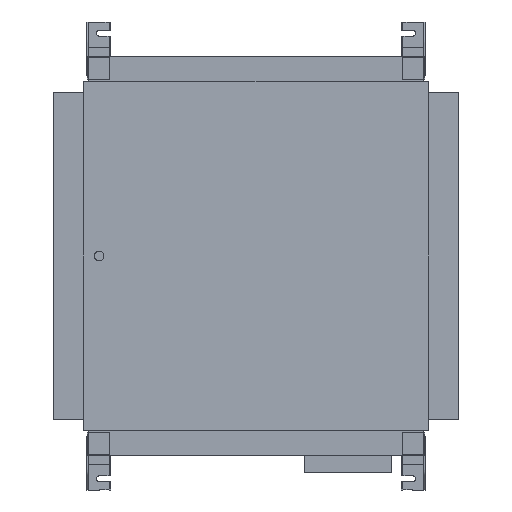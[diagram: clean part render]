
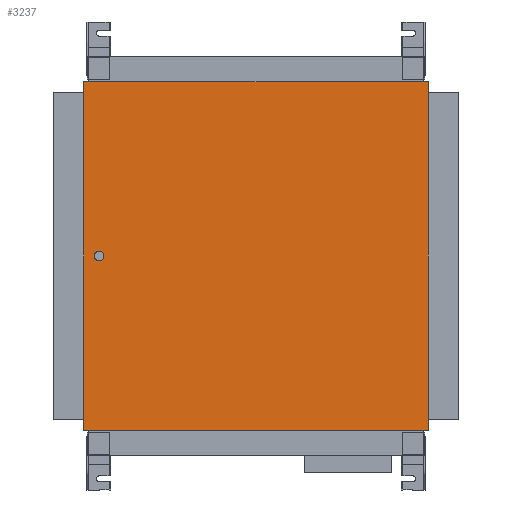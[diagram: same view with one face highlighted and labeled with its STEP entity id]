
A CAD part, front view. The second image highlights one B-rep face of the part: STEP entity #3237.
In plain terms, the highlighted planar face has unit normal (0.013, -1, 0).
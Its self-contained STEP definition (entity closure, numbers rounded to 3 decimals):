
#10 = EDGE_CURVE ( 'NONE', #114, #2161, #180, .T. ) ;
#14 = DIRECTION ( 'NONE',  ( -1., -0.013, 0. ) ) ;
#45 = EDGE_LOOP ( 'NONE', ( #6041, #979, #4710, #4921 ) ) ;
#114 = VERTEX_POINT ( 'NONE', #2358 ) ;
#180 = CIRCLE ( 'NONE', #960, 10.719 ) ;
#300 = CARTESIAN_POINT ( 'NONE',  ( -395.5, 40.798, -400. ) ) ;
#305 = FACE_OUTER_BOUND ( 'NONE', #45, .T. ) ;
#316 = EDGE_CURVE ( 'NONE', #4216, #2231, #4917, .T. ) ;
#395 = AXIS2_PLACEMENT_3D ( 'NONE', #3668, #2267, #5640 ) ;
#474 = DIRECTION ( 'NONE',  ( 0., 0., -1. ) ) ;
#591 = DIRECTION ( 'NONE',  ( 0., 0., -1. ) ) ;
#602 = EDGE_CURVE ( 'NONE', #4620, #2231, #3514, .T. ) ;
#840 = ORIENTED_EDGE ( 'NONE', *, *, #10, .F. ) ;
#866 = CARTESIAN_POINT ( 'NONE',  ( -360.123, 41.245, 0. ) ) ;
#960 = AXIS2_PLACEMENT_3D ( 'NONE', #866, #1349, #2308 ) ;
#979 = ORIENTED_EDGE ( 'NONE', *, *, #602, .T. ) ;
#1349 = DIRECTION ( 'NONE',  ( 0.013, -1., 0. ) ) ;
#1585 = CARTESIAN_POINT ( 'NONE',  ( 395.5, 50.8, -400. ) ) ;
#1852 = CARTESIAN_POINT ( 'NONE',  ( 395.5, 50.8, 1191.395 ) ) ;
#1856 = CARTESIAN_POINT ( 'NONE',  ( -370.842, 41.109, 0. ) ) ;
#2029 = CARTESIAN_POINT ( 'NONE',  ( -395.5, 40.798, 1191.395 ) ) ;
#2161 = VERTEX_POINT ( 'NONE', #1856 ) ;
#2231 = VERTEX_POINT ( 'NONE', #5404 ) ;
#2267 = DIRECTION ( 'NONE',  ( -0.013, 1., 0. ) ) ;
#2308 = DIRECTION ( 'NONE',  ( -1., -0.013, 0. ) ) ;
#2358 = CARTESIAN_POINT ( 'NONE',  ( -349.405, 41.38, 0. ) ) ;
#2394 = CARTESIAN_POINT ( 'NONE',  ( -395.5, 40.798, 400. ) ) ;
#2405 = CARTESIAN_POINT ( 'NONE',  ( -360.123, 41.245, 0. ) ) ;
#2459 = CARTESIAN_POINT ( 'NONE',  ( 395.5, 50.8, 400. ) ) ;
#2512 = CARTESIAN_POINT ( 'NONE',  ( -395.5, 40.798, 400. ) ) ;
#2603 = AXIS2_PLACEMENT_3D ( 'NONE', #2405, #4318, #14 ) ;
#2787 = VECTOR ( 'NONE', #5749, 1000. ) ;
#3237 = ADVANCED_FACE ( 'NONE', ( #4562, #305 ), #6073, .F. ) ;
#3299 = LINE ( 'NONE', #1852, #3682 ) ;
#3300 = EDGE_LOOP ( 'NONE', ( #5485, #840 ) ) ;
#3384 = CIRCLE ( 'NONE', #2603, 10.719 ) ;
#3514 = LINE ( 'NONE', #2029, #6178 ) ;
#3668 = CARTESIAN_POINT ( 'NONE',  ( -395.5, 40.798, 1191.395 ) ) ;
#3682 = VECTOR ( 'NONE', #474, 1000. ) ;
#3697 = EDGE_CURVE ( 'NONE', #6026, #4216, #3299, .T. ) ;
#3964 = VECTOR ( 'NONE', #4429, 1000. ) ;
#4216 = VERTEX_POINT ( 'NONE', #1585 ) ;
#4318 = DIRECTION ( 'NONE',  ( 0.013, -1., 0. ) ) ;
#4429 = DIRECTION ( 'NONE',  ( -1., -0.013, 0. ) ) ;
#4499 = EDGE_CURVE ( 'NONE', #4620, #6026, #6142, .T. ) ;
#4562 = FACE_BOUND ( 'NONE', #3300, .T. ) ;
#4620 = VERTEX_POINT ( 'NONE', #2512 ) ;
#4710 = ORIENTED_EDGE ( 'NONE', *, *, #316, .F. ) ;
#4917 = LINE ( 'NONE', #300, #3964 ) ;
#4921 = ORIENTED_EDGE ( 'NONE', *, *, #3697, .F. ) ;
#5404 = CARTESIAN_POINT ( 'NONE',  ( -395.5, 40.798, -400. ) ) ;
#5485 = ORIENTED_EDGE ( 'NONE', *, *, #5995, .F. ) ;
#5640 = DIRECTION ( 'NONE',  ( -1., -0.013, 0. ) ) ;
#5749 = DIRECTION ( 'NONE',  ( 1., 0.013, 0. ) ) ;
#5995 = EDGE_CURVE ( 'NONE', #2161, #114, #3384, .T. ) ;
#6026 = VERTEX_POINT ( 'NONE', #2459 ) ;
#6041 = ORIENTED_EDGE ( 'NONE', *, *, #4499, .F. ) ;
#6073 = PLANE ( 'NONE',  #395 ) ;
#6142 = LINE ( 'NONE', #2394, #2787 ) ;
#6178 = VECTOR ( 'NONE', #591, 1000. ) ;
